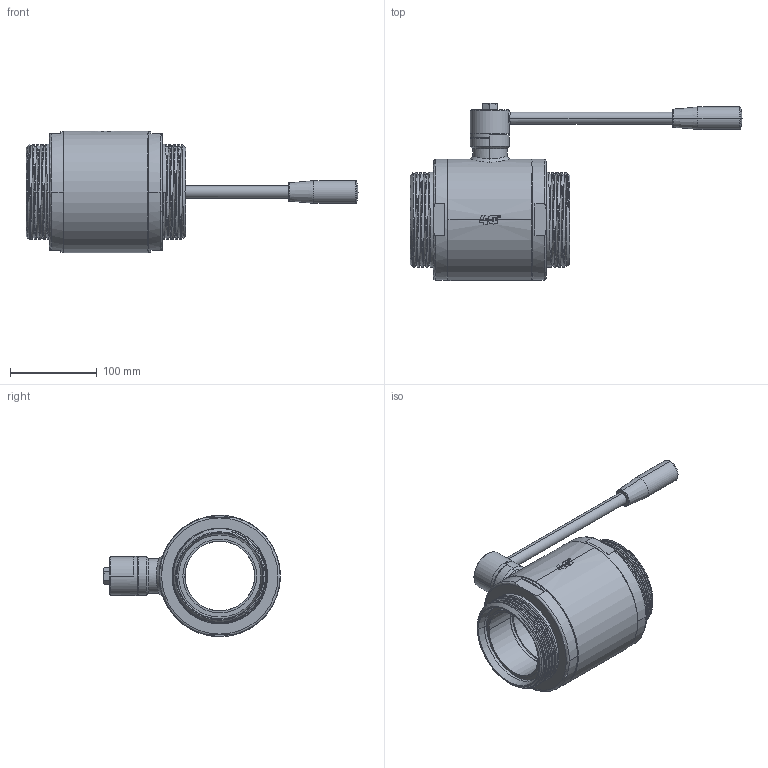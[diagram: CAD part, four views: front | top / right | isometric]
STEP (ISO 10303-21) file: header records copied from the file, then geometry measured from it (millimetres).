
FILE_DESCRIPTION((''),'2;1');
FILE_NAME('13012564810_SW0001','2026-04-17T16:22:18',('tecnico2'),('CDM Tecnoconsulting'),'CREO PARAMETRIC BY PTC INC, 2024063','CREO PARAMETRIC BY PTC INC, 2024063','');
FILE_SCHEMA(('CONFIG_CONTROL_DESIGN','SHAPE_APPEARANCE_LAYERS_GROUPS'));
Products named in the file (1): 13012564810_SW0001
Bounding box: 382.5 x 204 x 140 mm (x, y, z)
Volume: 1625307.5 mm3; surface area: 341393.4 mm2
Topology: 1 solids, 1 shells, 751 faces, 2017 edges, 1272 vertices
Faces by surface type: plane 312, cylinder 166, cone 82, bspline 75, extrusion 56, torus 46, sphere 14
Entity records: 63100 total; most frequent: CARTESIAN_POINT 38615, ORIENTED_EDGE 3998, DIRECTION 3262, PRESENTATION_STYLE_ASSIGNMENT 2081, STYLED_ITEM 2000, CURVE_STYLE 1999, EDGE_CURVE 1999, VERTEX_POINT 1272
